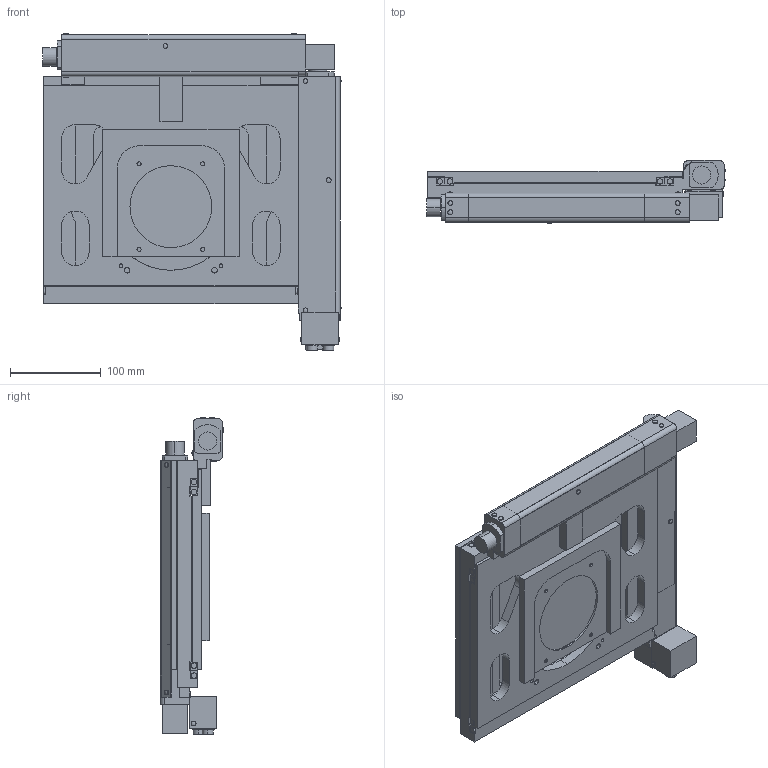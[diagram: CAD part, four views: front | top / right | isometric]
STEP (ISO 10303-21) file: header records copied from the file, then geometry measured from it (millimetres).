
FILE_DESCRIPTION (( 'STEP AP203' ), '1' );
FILE_NAME ('MSS-150C-NB.STEP', '2013-03-15T02:18:01', ( '' ), ( '' ), 'SwSTEP 2.0', 'SolidWorks 2011', '' );
FILE_SCHEMA (( 'CONFIG_CONTROL_DESIGN' ));
Length unit declared in the file: millimetre
Products named in the file (5): MSS-150C-NB; MSS-150C-NB-4; MSS-150C-NB-3; MSS-150C-NB-2; MSS-150C-NB-1
Assembly tree (4 placements, depth 2):
  MSS-150C-NB
    MSS-150C-NB-3
    MSS-150C-NB-2
    MSS-150C-NB-4
    MSS-150C-NB-1
Bounding box: 328.44 x 69.44 x 348.74 mm (x, y, z)
Volume: 1830608 mm3; surface area: 559965.7 mm2
Topology: 4 solids, 8 shells, 527 faces, 1315 edges, 866 vertices
Faces by surface type: plane 292, cylinder 214, bspline 21
Entity records: 20472 total; most frequent: CARTESIAN_POINT 7032, DIRECTION 2697, ORIENTED_EDGE 2630, EDGE_CURVE 1315, AXIS2_PLACEMENT_3D 915, VECTOR 867, LINE 867, VERTEX_POINT 866
